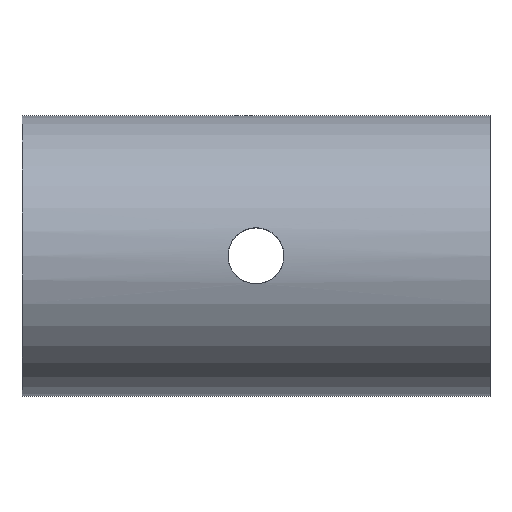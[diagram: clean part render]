
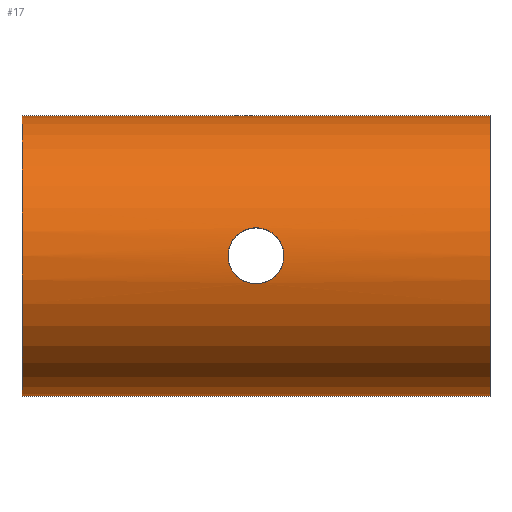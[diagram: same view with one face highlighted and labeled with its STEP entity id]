
A CAD part, top view. The second image highlights one B-rep face of the part: STEP entity #17.
In plain terms, the highlighted cylindrical face has radius 4 mm (diameter 8 mm), a partial arc.
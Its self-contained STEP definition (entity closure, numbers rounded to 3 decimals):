
#17 = ADVANCED_FACE('',(#18,#54),#111,.T.);
#18 = FACE_BOUND('',#19,.F.);
#19 = EDGE_LOOP('',(#20,#31,#39,#48));
#20 = ORIENTED_EDGE('',*,*,#21,.F.);
#21 = EDGE_CURVE('',#22,#24,#26,.T.);
#22 = VERTEX_POINT('',#23);
#23 = CARTESIAN_POINT('',(151.331,199.76,225.));
#24 = VERTEX_POINT('',#25);
#25 = CARTESIAN_POINT('',(151.331,191.76,225.));
#26 = CIRCLE('',#27,4.);
#27 = AXIS2_PLACEMENT_3D('',#28,#29,#30);
#28 = CARTESIAN_POINT('',(151.331,195.76,225.));
#29 = DIRECTION('',(1.,-0.,0.));
#30 = DIRECTION('',(0.,0.,-1.));
#31 = ORIENTED_EDGE('',*,*,#32,.T.);
#32 = EDGE_CURVE('',#22,#33,#35,.T.);
#33 = VERTEX_POINT('',#34);
#34 = CARTESIAN_POINT('',(164.701,199.76,225.));
#35 = LINE('',#36,#37);
#36 = CARTESIAN_POINT('',(151.33,199.76,225.));
#37 = VECTOR('',#38,1.);
#38 = DIRECTION('',(1.,0.,0.));
#39 = ORIENTED_EDGE('',*,*,#40,.T.);
#40 = EDGE_CURVE('',#33,#41,#43,.T.);
#41 = VERTEX_POINT('',#42);
#42 = CARTESIAN_POINT('',(164.701,191.76,225.));
#43 = CIRCLE('',#44,4.);
#44 = AXIS2_PLACEMENT_3D('',#45,#46,#47);
#45 = CARTESIAN_POINT('',(164.701,195.76,225.));
#46 = DIRECTION('',(1.,-0.,0.));
#47 = DIRECTION('',(0.,0.,-1.));
#48 = ORIENTED_EDGE('',*,*,#49,.F.);
#49 = EDGE_CURVE('',#24,#41,#50,.T.);
#50 = LINE('',#51,#52);
#51 = CARTESIAN_POINT('',(151.33,191.76,225.));
#52 = VECTOR('',#53,1.);
#53 = DIRECTION('',(1.,0.,0.));
#54 = FACE_BOUND('',#55,.F.);
#55 = EDGE_LOOP('',(#56));
#56 = ORIENTED_EDGE('',*,*,#57,.F.);
#57 = EDGE_CURVE('',#58,#58,#60,.T.);
#58 = VERTEX_POINT('',#59);
#59 = CARTESIAN_POINT('',(158.815,195.76,229.));
#60 = B_SPLINE_CURVE_WITH_KNOTS('',7,(#61,#62,#63,#64,#65,#66,#67,#68,
    #69,#70,#71,#72,#73,#74,#75,#76,#77,#78,#79,#80,#81,#82,#83,#84,#85,
    #86,#87,#88,#89,#90,#91,#92,#93,#94,#95,#96,#97,#98,#99,#100,#101,
    #102,#103,#104,#105,#106,#107,#108,#109,#110),.UNSPECIFIED.,.T.,.F.,
  (8,6,6,6,6,6,6,6,8),(0.,0.134,0.25,0.366,
    0.5,0.634,0.75,0.866,1.),
  .UNSPECIFIED.);
#61 = CARTESIAN_POINT('',(158.815,195.76,229.));
#62 = CARTESIAN_POINT('',(158.815,195.655,229.));
#63 = CARTESIAN_POINT('',(158.799,195.551,
    228.997));
#64 = CARTESIAN_POINT('',(158.767,195.451,228.99
    ));
#65 = CARTESIAN_POINT('',(158.722,195.358,
    228.982));
#66 = CARTESIAN_POINT('',(158.664,195.275,228.972
    ));
#67 = CARTESIAN_POINT('',(158.597,195.203,
    228.962));
#68 = CARTESIAN_POINT('',(158.462,195.091,
    228.944));
#69 = CARTESIAN_POINT('',(158.394,195.048,
    228.936));
#70 = CARTESIAN_POINT('',(158.322,195.013,
    228.93));
#71 = CARTESIAN_POINT('',(158.247,194.986,228.925
    ));
#72 = CARTESIAN_POINT('',(158.17,194.969,
    228.921));
#73 = CARTESIAN_POINT('',(158.093,194.96,228.919));
#74 = CARTESIAN_POINT('',(157.937,194.96,228.919));
#75 = CARTESIAN_POINT('',(157.86,194.969,
    228.921));
#76 = CARTESIAN_POINT('',(157.783,194.986,
    228.925));
#77 = CARTESIAN_POINT('',(157.708,195.013,228.93)
  );
#78 = CARTESIAN_POINT('',(157.636,195.048,
    228.936));
#79 = CARTESIAN_POINT('',(157.568,195.091,
    228.944));
#80 = CARTESIAN_POINT('',(157.433,195.203,
    228.962));
#81 = CARTESIAN_POINT('',(157.366,195.275,228.972
    ));
#82 = CARTESIAN_POINT('',(157.308,195.358,
    228.982));
#83 = CARTESIAN_POINT('',(157.263,195.451,
    228.99));
#84 = CARTESIAN_POINT('',(157.231,195.551,228.997)
  );
#85 = CARTESIAN_POINT('',(157.215,195.655,229.));
#86 = CARTESIAN_POINT('',(157.215,195.865,229.));
#87 = CARTESIAN_POINT('',(157.231,195.969,228.997
    ));
#88 = CARTESIAN_POINT('',(157.263,196.069,
    228.99));
#89 = CARTESIAN_POINT('',(157.308,196.162,
    228.982));
#90 = CARTESIAN_POINT('',(157.366,196.245,
    228.972));
#91 = CARTESIAN_POINT('',(157.433,196.317,228.962
    ));
#92 = CARTESIAN_POINT('',(157.568,196.429,
    228.944));
#93 = CARTESIAN_POINT('',(157.636,196.472,
    228.936));
#94 = CARTESIAN_POINT('',(157.708,196.507,228.93)
  );
#95 = CARTESIAN_POINT('',(157.783,196.534,
    228.925));
#96 = CARTESIAN_POINT('',(157.86,196.551,
    228.921));
#97 = CARTESIAN_POINT('',(157.937,196.56,228.919));
#98 = CARTESIAN_POINT('',(158.093,196.56,228.919));
#99 = CARTESIAN_POINT('',(158.17,196.551,
    228.921));
#100 = CARTESIAN_POINT('',(158.247,196.534,
    228.925));
#101 = CARTESIAN_POINT('',(158.322,196.507,
    228.93));
#102 = CARTESIAN_POINT('',(158.394,196.472,
    228.936));
#103 = CARTESIAN_POINT('',(158.462,196.429,
    228.944));
#104 = CARTESIAN_POINT('',(158.597,196.317,
    228.962));
#105 = CARTESIAN_POINT('',(158.664,196.245,
    228.972));
#106 = CARTESIAN_POINT('',(158.722,196.162,
    228.982));
#107 = CARTESIAN_POINT('',(158.767,196.069,
    228.99));
#108 = CARTESIAN_POINT('',(158.799,195.969,
    228.997));
#109 = CARTESIAN_POINT('',(158.815,195.865,229.));
#110 = CARTESIAN_POINT('',(158.815,195.76,229.));
#111 = CYLINDRICAL_SURFACE('',#112,4.);
#112 = AXIS2_PLACEMENT_3D('',#113,#114,#115);
#113 = CARTESIAN_POINT('',(151.331,195.76,225.));
#114 = DIRECTION('',(-1.,-0.,0.));
#115 = DIRECTION('',(0.,0.,-1.));
